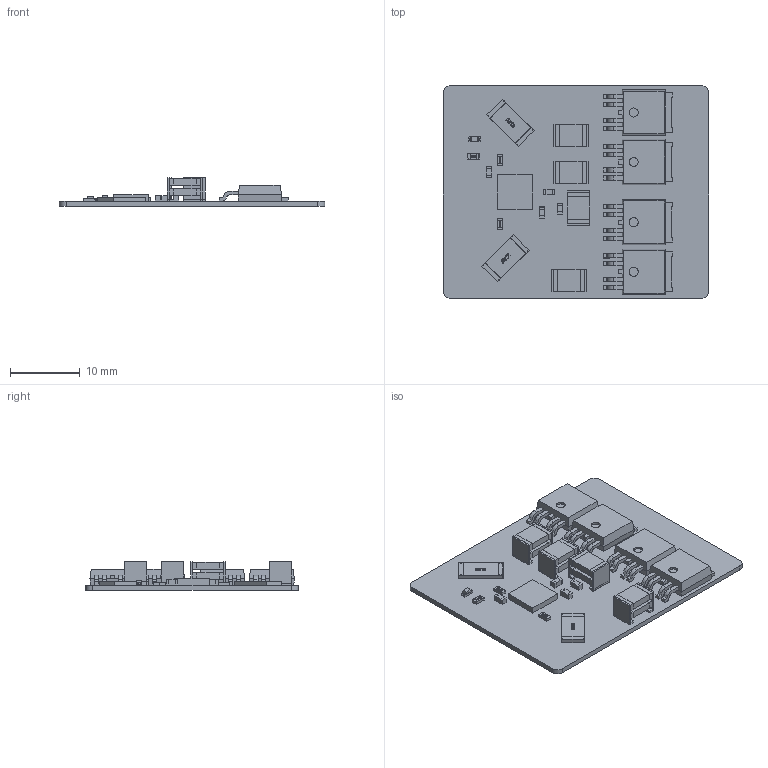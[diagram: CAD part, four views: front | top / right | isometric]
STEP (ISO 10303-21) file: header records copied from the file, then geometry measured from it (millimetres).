
FILE_DESCRIPTION(('Open CASCADE Model'),'2;1');
FILE_NAME('Open CASCADE Shape Model','2017-08-15T21:53:31',('Author'),( 'Open CASCADE'),'Open CASCADE STEP processor 6.8','Open CASCADE 6.8' ,'Unknown');
FILE_SCHEMA(('AUTOMOTIVE_DESIGN { 1 0 10303 214 1 1 1 1 }'));
Products named in the file (1): PCB
Bounding box: 38.1 x 30.48 x 4.07 mm (x, y, z)
Volume: 1318.1 mm3; surface area: 4317.3 mm2
Topology: 56 solids, 675 shells, 1452 faces, 4984 edges, 4171 vertices
Faces by surface type: plane 893, cylinder 258, bspline 205, sphere 96
Entity records: 72218 total; most frequent: CARTESIAN_POINT 26417, DIRECTION 7681, ORIENTED_EDGE 6766, EDGE_CURVE 4888, VERTEX_POINT 4171, LINE 3361, VECTOR 3361, AXIS2_PLACEMENT_3D 2160
